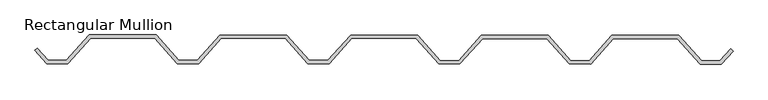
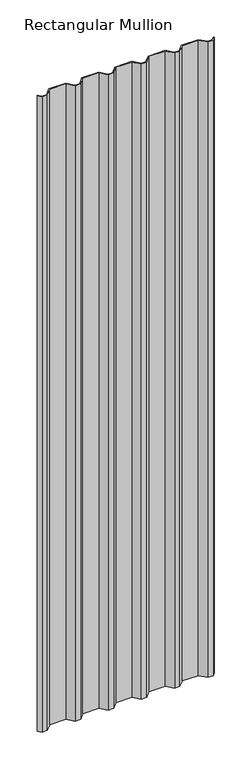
"""IFC4 building model written with IfcOpenShell, lengths in millimetres: member geometry, Rectangular Mullion : Telha Metálica - Trapezoidal."""

from ifc_helpers import new_model, si_unit, frame, origin, place, context, project, spatial, polyline, outline, extrude, source, transform, mapped, element, save


def rectangular_mullion_4691f95d(model_context):
    return source(origin(), model_context, "Body", "SweptSolid", [
        extrude(outline(polyline([(440.066155, 75.6159987), (344.0661915, 75.6997745), (310.0330432, 37.7294595), (278.0330554, 37.7573848), (244.0662296, 75.7870409), (148.0662661, 75.8708167), (114.0331178, 37.9005018), (82.03313, 37.928427), (48.0663042, 75.9580832), (-47.9336592, 76.041859), (-81.9668075, 38.071544), (-113.9667953, 38.0994693), (-147.9336211, 76.1291254), (-243.9335846, 76.2129012), (-277.9667329, 38.2425863), (-309.9667207, 38.2705115), (-343.9335465, 76.3001677), (-439.93351, 76.3839434), (-473.9666583, 38.4136285), (-505.9666461, 38.4415538), (-523.4905169, 58.0614849), (-519.9464424, 61.5993792), (-503.7267316, 43.439601), (-476.1978461, 43.4155775), (-442.1646978, 81.3858924), (-341.693632, 81.2982149), (-307.7268062, 43.2685587), (-280.1979207, 43.2445352), (-246.1647724, 81.2148502), (-145.6937067, 81.1271726), (-111.7268809, 43.0975165), (-84.1979953, 43.073493), (-50.164847, 81.0438079), (50.3062187, 80.9561304), (84.2730445, 42.9264742), (111.80193, 42.9024508), (145.8350783, 80.8727657), (246.3061441, 80.7850881), (280.2729699, 42.755432), (307.8018554, 42.7314085), (341.8350037, 80.7017235), (442.3060694, 80.6140459), (476.2728952, 42.5843898), (503.8017808, 42.5603663), (520.072301, 60.7131616), (523.6101953, 57.1690871), (506.0329686, 37.5584173), (474.0329808, 37.5863426), (440.066155, 75.6159987)])), frame((0.0, 0.0, -3976.5943466), z_axis=(0.0, 0.0, 1.0), x_axis=(1.0, 0.0, 0.0)), (0.0, 0.0, 1.0), 3976.5943466),
    ])


if __name__ == "__main__":
    model = new_model("IFC4")
    model_context = context("Model", 3, world=origin())
    ifc_project = project(units=[si_unit("LENGTHUNIT", "METRE", prefix="MILLI")], contexts=[model_context])
    site = spatial("IfcSite", under=ifc_project)
    building = spatial("IfcBuilding", under=site)
    placement = place(None, origin())
    rectangular_mullion_shape = rectangular_mullion_4691f95d(model_context)
    element("IfcMember", 1, ObjectType="Rectangular Mullion : Telha Metálica - Trapezoidal", at=placement, inside=building, context=model_context, shape_type="MappedRepresentation", body=[
        mapped(rectangular_mullion_shape, transform((0.0, 0.0, 0.0), x_axis=(1.0, 0.0, 0.0), y_axis=(0.0, 1.0, 0.0), z_axis=(0.0, 0.0, 1.0))),
    ])
    save(model, "model.ifc")
